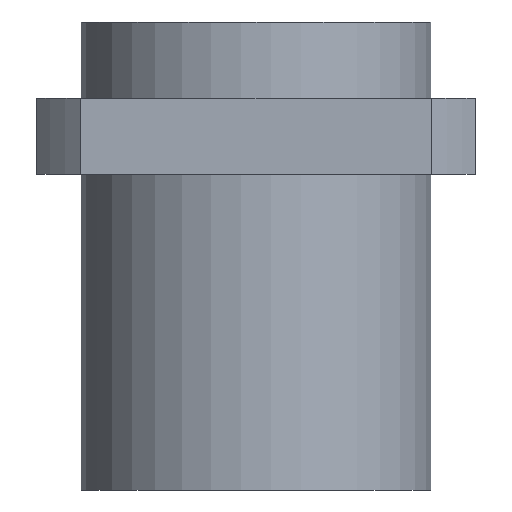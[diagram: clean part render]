
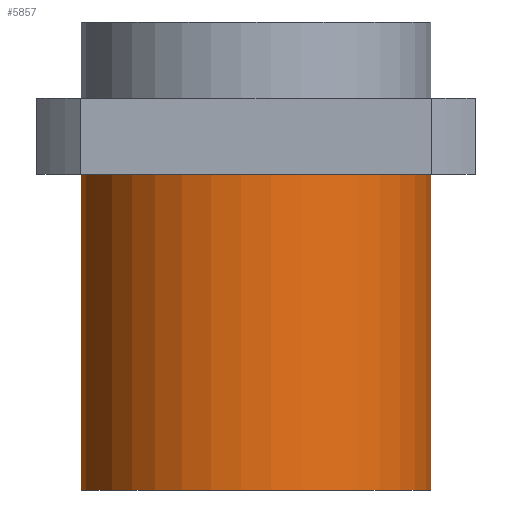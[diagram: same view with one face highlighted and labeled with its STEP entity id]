
A CAD part, front view. The second image highlights one B-rep face of the part: STEP entity #5857.
In plain terms, the highlighted cylindrical face has radius 30 mm (diameter 60 mm), a full revolution.
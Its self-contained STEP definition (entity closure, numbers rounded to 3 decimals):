
#83=CYLINDRICAL_SURFACE('',#6241,30.);
#100=CIRCLE('',#6208,30.);
#124=CIRCLE('',#6242,30.);
#544=ORIENTED_EDGE('',*,*,#2224,.T.);
#545=ORIENTED_EDGE('',*,*,#2054,.T.);
#2054=EDGE_CURVE('',#2898,#2898,#100,.F.);
#2224=EDGE_CURVE('',#3060,#3060,#124,.T.);
#2898=VERTEX_POINT('',#8489);
#3060=VERTEX_POINT('',#9270);
#4798=EDGE_LOOP('',(#544));
#4799=EDGE_LOOP('',(#545));
#5220=FACE_BOUND('',#4798,.T.);
#5221=FACE_BOUND('',#4799,.T.);
#5857=ADVANCED_FACE('',(#5220,#5221),#83,.T.);
#6208=AXIS2_PLACEMENT_3D('',#8488,#6624,#6625);
#6241=AXIS2_PLACEMENT_3D('',#9268,#6812,#6813);
#6242=AXIS2_PLACEMENT_3D('',#9269,#6814,#6815);
#6624=DIRECTION('',(0.,0.,1.));
#6625=DIRECTION('',(0.707,-0.707,0.));
#6812=DIRECTION('',(0.,0.,1.));
#6813=DIRECTION('',(0.707,-0.707,0.));
#6814=DIRECTION('',(0.,0.,1.));
#6815=DIRECTION('',(0.707,-0.707,0.));
#8488=CARTESIAN_POINT('',(0.,0.,-13.));
#8489=CARTESIAN_POINT('',(21.213,-21.213,-13.));
#9268=CARTESIAN_POINT('',(0.,0.,-67.));
#9269=CARTESIAN_POINT('',(0.,0.,-67.));
#9270=CARTESIAN_POINT('',(21.213,-21.213,-67.));
